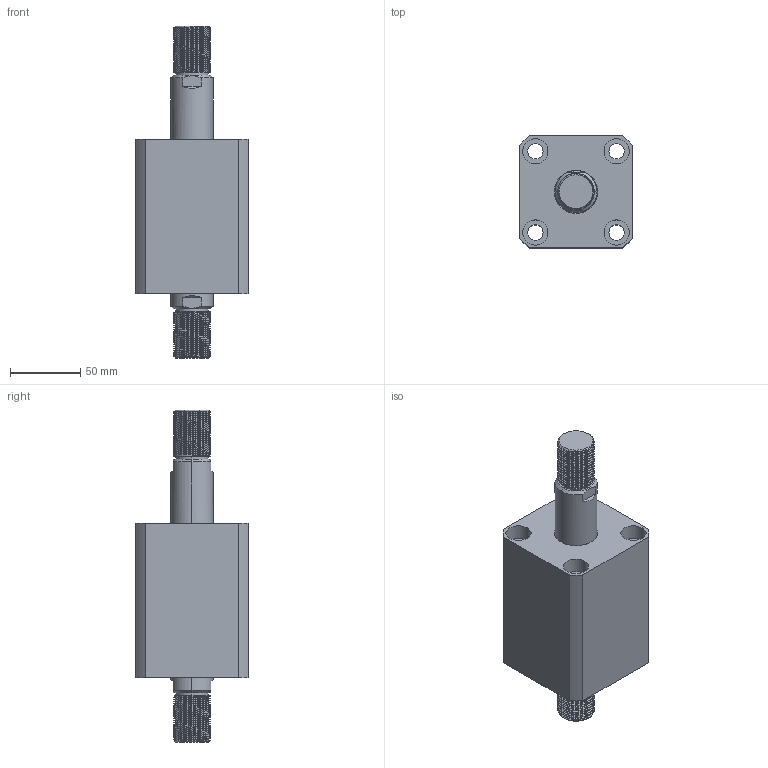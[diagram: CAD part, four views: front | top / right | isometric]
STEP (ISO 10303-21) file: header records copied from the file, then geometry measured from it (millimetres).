
FILE_DESCRIPTION (( 'STEP AP203' ), '1' );
FILE_NAME ('CHTB-SW50-35W.STEP', '2018-05-21T06:02:59', ( '' ), ( '' ), 'SwSTEP 2.0', 'SolidWorks 2015', '' );
FILE_SCHEMA (( 'CONFIG_CONTROL_DESIGN' ));
Length unit declared in the file: millimetre
Products named in the file (4): 掛极SW50-35W; ヶ裔; CHTB-SW50-35W; 活塞杆SW50-35W
Assembly tree (3 placements, depth 2):
  CHTB-SW50-35W
    掛极SW50-35W
    活塞杆SW50-35W
    ヶ裔
Bounding box: 80 x 80 x 237 mm (x, y, z)
Volume: 660613.6 mm3; surface area: 125705.1 mm2
Topology: 3 solids, 3 shells, 314 faces, 794 edges, 514 vertices
Faces by surface type: cylinder 202, plane 51, cone 29, torus 24, bspline 8
Entity records: 17377 total; most frequent: CARTESIAN_POINT 10049, ORIENTED_EDGE 1580, DIRECTION 1358, EDGE_CURVE 790, AXIS2_PLACEMENT_3D 549, VERTEX_POINT 514, EDGE_LOOP 362, FACE_OUTER_BOUND 314
